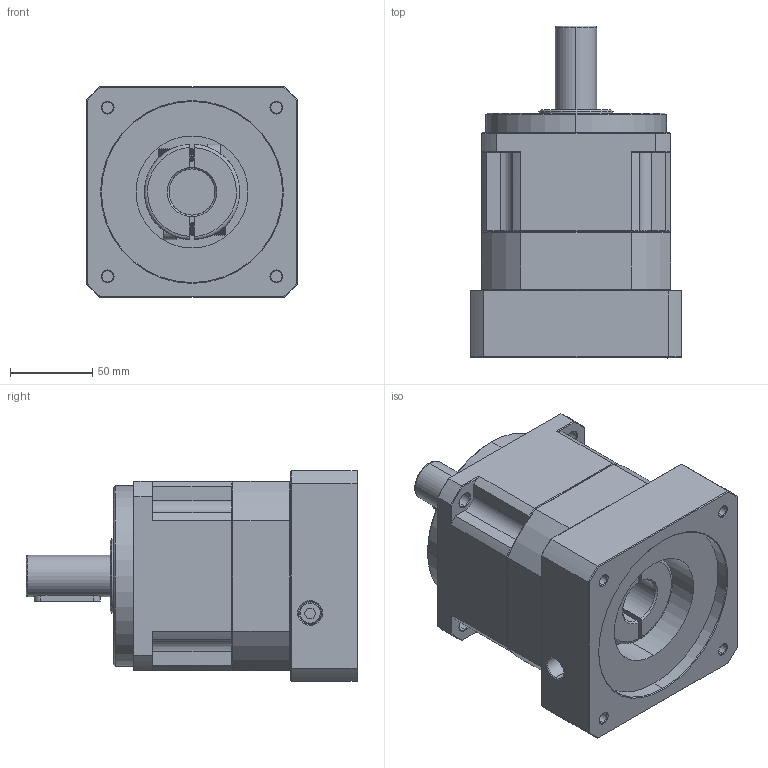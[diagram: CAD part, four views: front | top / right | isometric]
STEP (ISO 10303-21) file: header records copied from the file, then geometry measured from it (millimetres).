
FILE_DESCRIPTION (( 'STEP AP214' ), '1' );
FILE_NAME ('ZPB115-D25-L1-P1-28-110-145-M8.step', '2024-06-11T19:27:34', ( 'Windows 蚚誧' ), ( 'Organization' ), 'SwSTEP 2.0', 'SolidWorks 2016', '' );
FILE_SCHEMA (( 'AUTOMOTIVE_DESIGN' ));
Length unit declared in the file: millimetre
Products named in the file (1): ZPB115-D25-L1-P1-28-110-145-M8
Bounding box: 128 x 201.5 x 128 mm (x, y, z)
Surface area: 141473.7 mm2 (no closed solid volume)
Topology: 0 solids, 28 shells, 1802 faces, 4919 edges, 3176 vertices
Faces by surface type: plane 916, bspline 381, cone 266, cylinder 239
Full cylindrical faces by diameter (mm): 10.2 x4
Entity records: 97029 total; most frequent: CARTESIAN_POINT 48742, ORIENTED_EDGE 9640, DIRECTION 7356, EDGE_CURVE 4829, VECTOR 3140, LINE 3140, VERTEX_POINT 3112, AXIS2_PLACEMENT_3D 2108
